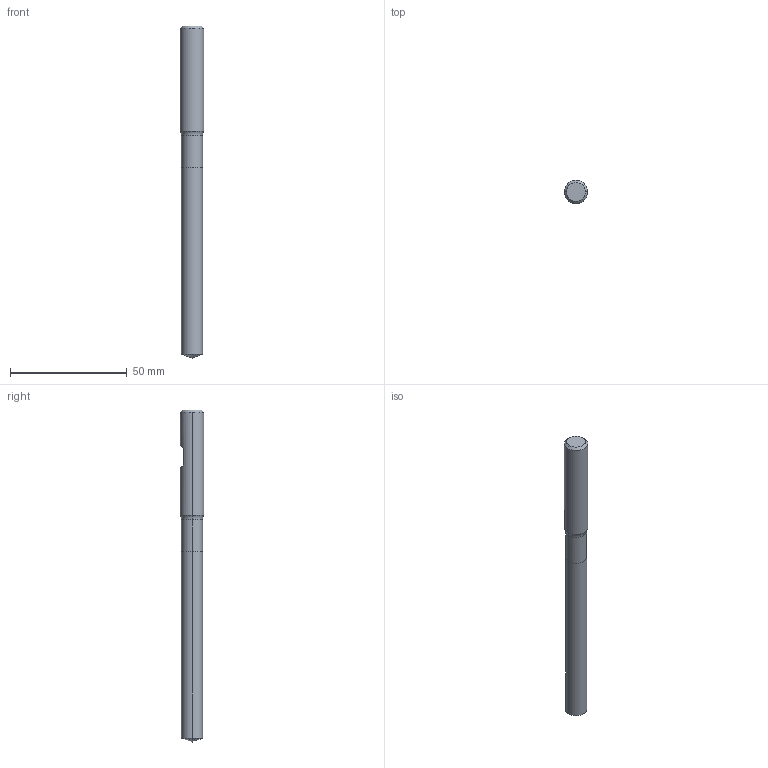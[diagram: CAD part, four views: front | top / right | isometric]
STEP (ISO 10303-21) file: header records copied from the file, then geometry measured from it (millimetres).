
FILE_DESCRIPTION (( 'STEP AP214' ), '1' );
FILE_NAME ('754.090.10_3D-model.step', '2023-08-22T07:06:23', ( '' ), ( '' ), 'SwSTEP 2.0', 'SolidWorks 2020', '' );
FILE_SCHEMA (( 'AUTOMOTIVE_DESIGN' ));
Length unit declared in the file: millimetre
Products named in the file (3): NOCUT-3D^Baugr4; CUT-3D^Baugr4; 754.090.10_3D-model
Assembly tree (2 placements, depth 2):
  754.090.10_3D-model
    CUT-3D^Baugr4
    NOCUT-3D^Baugr4
Bounding box: 10 x 10 x 142 mm (x, y, z)
Volume: 9570.5 mm3; surface area: 4368 mm2
Topology: 2 solids, 2 shells, 18 faces, 34 edges, 19 vertices
Faces by surface type: cylinder 6, plane 6, cone 4, torus 2
Entity records: 558 total; most frequent: DIRECTION 98, CARTESIAN_POINT 83, ORIENTED_EDGE 64, AXIS2_PLACEMENT_3D 42, EDGE_CURVE 32, VERTEX_POINT 19, EDGE_LOOP 19, ADVANCED_FACE 18
